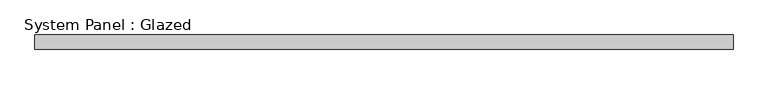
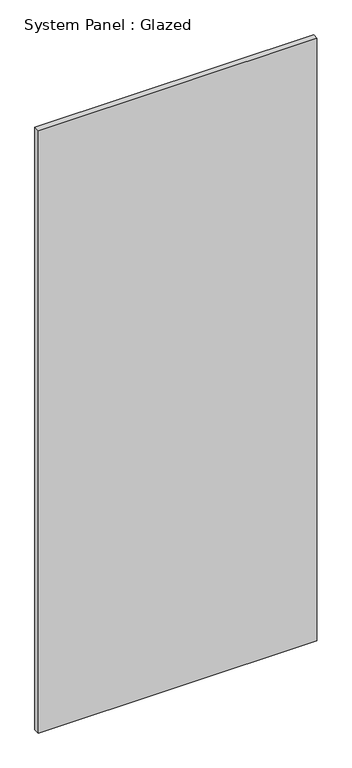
"""IFC4 building model written with IfcOpenShell, lengths in millimetres: plate geometry, System Panel : Glazed."""

from ifc_helpers import new_model, si_unit, origin, origin_with_axes, place, context, project, spatial, polyline, outline, extrude, source, transform, mapped, element, save


def system_panel_glazed_9c42d7fd(model_context):
    return source(origin(), model_context, "Body", "SweptSolid", [
        extrude(outline(polyline([(612.5000001, 19.05), (-612.5000001, 19.05), (-612.5000001, 44.45), (612.5000001, 44.45), (612.5000001, 19.05)])), origin_with_axes(), (0.0, 0.0, 1.0), 2800.0),
    ])


if __name__ == "__main__":
    model = new_model("IFC4")
    model_context = context("Model", 3, world=origin())
    ifc_project = project(units=[si_unit("LENGTHUNIT", "METRE", prefix="MILLI")], contexts=[model_context])
    site = spatial("IfcSite", under=ifc_project)
    building = spatial("IfcBuilding", under=site)
    placement = place(None, origin())
    system_panel_glazed_shape = system_panel_glazed_9c42d7fd(model_context)
    element("IfcPlate", 1, ObjectType="System Panel : Glazed", at=placement, inside=building, context=model_context, shape_type="MappedRepresentation", body=[
        mapped(system_panel_glazed_shape, transform((0.0, 0.0, 0.0), x_axis=(1.0, 0.0, 0.0), y_axis=(0.0, 1.0, 0.0), z_axis=(0.0, 0.0, 1.0))),
    ])
    save(model, "model.ifc")
